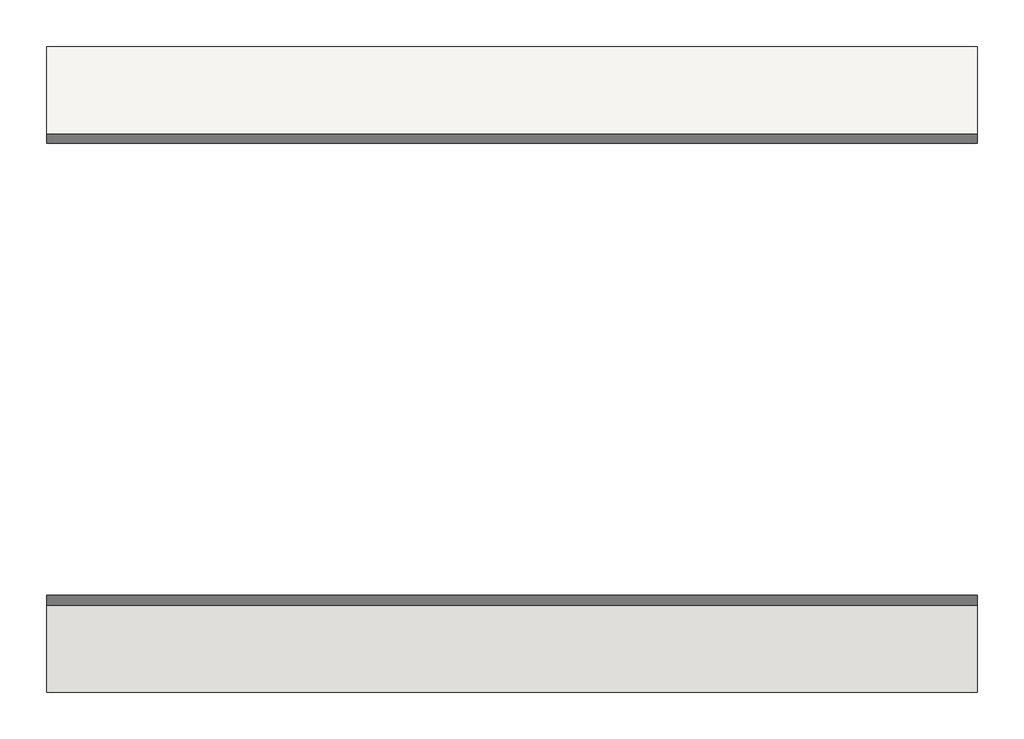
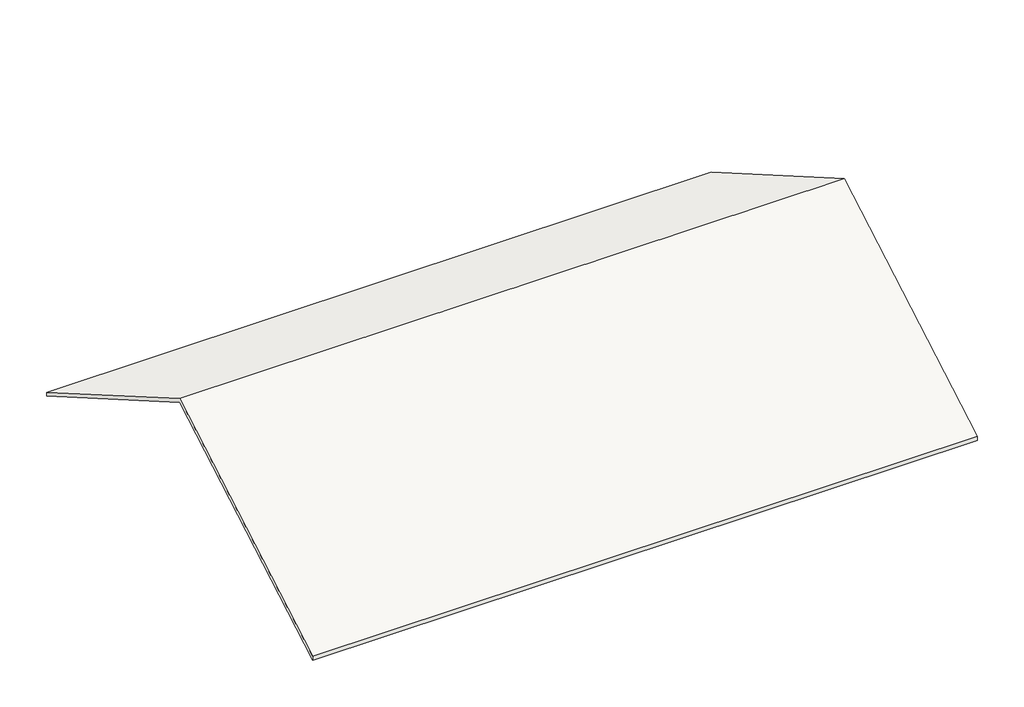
# One storey: 1 roof.
"""IFC4 building model written with IfcOpenShell, lengths in millimetres."""

import ifcopenshell
import ifcopenshell.guid

model = None  # the IFC model being written
_history = None  # IfcOwnerHistory: only IFC2X3 demands one
_inside = {}  # id of a spatial element -> (the spatial element, [elements in it])
_under = {}  # id of a project, library or spatial element -> (it, [spatial elements below it])
_declared = {}  # id of a project -> (the project, [libraries it declares])
_typed = {}  # id of a type object -> (the type object, [elements of that type])
_made_of = {}  # id of a material, layer set ... -> (it, [elements and type objects made of it])


def new_model(schema):
    """Start an empty IFC model of exactly this schema.

    Asked for "IFC4X3", IfcOpenShell would pick the latest addendum, in which some entities
    have other attributes; the version numbers below select the first issue.
    IFC2X3 requires an IfcOwnerHistory on every rooted entity: one is made here for all.
    """
    global model, _history
    if schema == "IFC4X3":
        model = ifcopenshell.file(schema_version=(4, 3, 0, 0))
    else:
        model = ifcopenshell.file(schema=schema)
    _inside.clear()
    _under.clear()
    _declared.clear()
    _typed.clear()
    _made_of.clear()
    _history = None
    if model.schema == "IFC2X3":
        org = make("IfcOrganization", Name="unknown")
        user = make(
            "IfcPersonAndOrganization",
            ThePerson=make("IfcPerson", FamilyName="unknown"),
            TheOrganization=org,
        )
        app = make(
            "IfcApplication",
            ApplicationDeveloper=org,
            Version="unknown",
            ApplicationFullName="unknown",
            ApplicationIdentifier="unknown",
        )
        _history = make(
            "IfcOwnerHistory",
            OwningUser=user,
            OwningApplication=app,
            ChangeAction="ADDED",
            CreationDate=0,
        )
    return model


def make(cls, **values):
    """One entity of the class cls with the attributes given. An attribute that is None is left unset."""
    return model.create_entity(
        cls, **{name: value for name, value in values.items() if value is not None}
    )


def rooted(cls, **values):
    """An entity with a GlobalId (a new one), such as an element, a storey or a relation."""
    return make(cls, GlobalId=ifcopenshell.guid.new(), OwnerHistory=_history, **values)


def si_unit(unit_type, name, prefix=None):
    """IfcSIUnit, for example si_unit("LENGTHUNIT", "METRE", prefix="MILLI")."""
    return make("IfcSIUnit", UnitType=unit_type, Prefix=prefix, Name=name)


def assignment(units):
    """IfcUnitAssignment: the units of a project."""
    return None if units is None else make("IfcUnitAssignment", Units=units)


def point(xyz):
    """IfcCartesianPoint."""
    return None if xyz is None else make("IfcCartesianPoint", Coordinates=xyz)


def direction(xyz):
    """IfcDirection."""
    return None if xyz is None else make("IfcDirection", DirectionRatios=xyz)


def frame(location, z_axis=None, x_axis=None):
    """IfcAxis2Placement3D, a coordinate frame: its origin and axes. An axis left out is left unset."""
    return make(
        "IfcAxis2Placement3D",
        Location=point(location),
        Axis=direction(z_axis),
        RefDirection=direction(x_axis),
    )


def origin():
    """The frame at (0, 0, 0) with its axes left unset."""
    return frame((0.0, 0.0, 0.0))


def place(relative_to, where):
    """IfcLocalPlacement: puts the frame where relative to a parent placement (None: the world)."""
    return make(
        "IfcLocalPlacement", PlacementRelTo=relative_to, RelativePlacement=where
    )


def context(
    kind, dimensions, precision=None, world=None, true_north=None, identifier=None
):
    """IfcGeometricRepresentationContext, for example the 3D "Model" context."""
    return make(
        "IfcGeometricRepresentationContext",
        ContextIdentifier=identifier,
        ContextType=kind,
        CoordinateSpaceDimension=dimensions,
        Precision=precision,
        WorldCoordinateSystem=world,
        TrueNorth=true_north,
    )


def project(units=None, contexts=None):
    """IfcProject with its units and contexts."""
    return rooted(
        "IfcProject",
        Name="project",
        RepresentationContexts=contexts,
        UnitsInContext=assignment(units),
    )


def spatial(cls, under=None, at=None, **own):
    """A site, building, storey or space (cls), placed at a placement, below another one or the project."""
    s = rooted(cls, ObjectPlacement=at, **own)
    if under is not None:
        _under.setdefault(under.id(), (under, []))[1].append(s)
    return s


def polyline(points):
    """IfcPolyline through the points."""
    return make("IfcPolyline", Points=[point(p) for p in points])


def outline(outer, holes=None, kind="AREA"):
    """IfcArbitraryClosedProfileDef: a profile drawn as a closed curve; with holes, ...WithVoids."""
    if holes is None:
        return make("IfcArbitraryClosedProfileDef", ProfileType=kind, OuterCurve=outer)
    return make(
        "IfcArbitraryProfileDefWithVoids",
        ProfileType=kind,
        OuterCurve=outer,
        InnerCurves=holes,
    )


def extrude(swept, where, along, depth):
    """IfcExtrudedAreaSolid: the profile swept, set in the frame where, extruded along a direction by depth."""
    return make(
        "IfcExtrudedAreaSolid",
        SweptArea=swept,
        Position=where,
        ExtrudedDirection=direction(along),
        Depth=depth,
    )


def shape(context_of_items, identifier, shape_type, items):
    """IfcShapeRepresentation: the items that make up one representation, for example the "Body"."""
    return make(
        "IfcShapeRepresentation",
        ContextOfItems=context_of_items,
        RepresentationIdentifier=identifier,
        RepresentationType=shape_type,
        Items=items,
    )


def made_of(thing, what):
    """Note that an element or type object is made of a material, layer set ...; save() writes the relation."""
    if what is not None:
        _made_of.setdefault(what.id(), (what, []))[1].append(thing)
    return thing


def element(
    cls,
    number,
    at=None,
    inside=None,
    cuts=None,
    type_object=None,
    material=None,
    context=None,
    identifier="Body",
    shape_type=None,
    held_by="IfcProductDefinitionShape",
    body=None,
    shapes=None,
    **own,
):
    """One element of the class cls, such as IfcWall. Its Tag is "e" and its number.

    at: its placement. inside: the storey or other place that contains it. cuts: it is an
    opening in that element (IfcRelVoidsElement). A single representation is given by context,
    identifier, shape_type and body (its items); several are given by shapes. held_by: the class
    of the entity that holds the representations. save() writes the other relations.
    """
    e = rooted(cls, Tag="e%d" % number, ObjectPlacement=at, **own)
    if body is not None:
        shapes = [shape(context, identifier, shape_type, body)]
    if shapes is not None:
        e.Representation = make(held_by, Representations=shapes)
    if inside is not None:
        _inside.setdefault(inside.id(), (inside, []))[1].append(e)
    if cuts is not None:
        rooted(
            "IfcRelVoidsElement", RelatingBuildingElement=cuts, RelatedOpeningElement=e
        )
    if type_object is not None:
        _typed.setdefault(type_object.id(), (type_object, []))[1].append(e)
    return made_of(e, material)


def aggregate(whole, parts):
    """IfcRelAggregates: a whole, such as a stair, and the parts it consists of."""
    return rooted("IfcRelAggregates", RelatingObject=whole, RelatedObjects=parts)


def save(model, path):
    """Write the relations noted so far, then the file.

    IfcRelAggregates (storeys below a building ...), IfcRelContainedInSpatialStructure (elements
    in a storey), IfcRelDefinesByType, IfcRelAssociatesMaterial and IfcRelDeclares: one each for
    every whole, place, type object, material and project.
    """
    for whole, parts in _under.values():
        aggregate(whole, parts)
    for where, things in _inside.values():
        rooted(
            "IfcRelContainedInSpatialStructure",
            RelatedElements=things,
            RelatingStructure=where,
        )
    for kind, things in _typed.values():
        rooted("IfcRelDefinesByType", RelatedObjects=things, RelatingType=kind)
    for what, things in _made_of.values():
        rooted("IfcRelAssociatesMaterial", RelatedObjects=things, RelatingMaterial=what)
    for by, libraries in _declared.values():
        rooted("IfcRelDeclares", RelatingContext=by, RelatedDefinitions=libraries)
    model.write(path)


model = new_model("IFC4")

# Units and contexts
model_context = context("Model", 3, world=origin())
ifc_project = project(units=[si_unit("LENGTHUNIT", "METRE", prefix="MILLI")], contexts=[model_context])

# Site, building, storey
site = spatial("IfcSite", under=ifc_project)
building = spatial("IfcBuilding", under=site)
storey = spatial("IfcBuildingStorey", under=building, Name="Takfot", Elevation=7000.0)

# Roof
placement = place(None, origin())
element("IfcRoof", 1, ObjectType="Tegeltak", at=placement, inside=storey, context=model_context, shape_type="SweptSolid", body=[
    extrude(outline(polyline([(9550.0, 6966.5136844), (17473.75, 11541.2928799), (25397.5, 6966.5136844), (25397.5, 6826.7949192), (17473.75, 11401.5741147), (9550.0, 6826.7949192), (9550.0, 6966.5136844)])), frame((9550.0, 0.0, 0.0), z_axis=(1.0, 0.0, 0.0), x_axis=(0.0, 1.0, 0.0)), (0.0, 0.0, 1.0), 22852.5),
])

save(model, "model.ifc")
